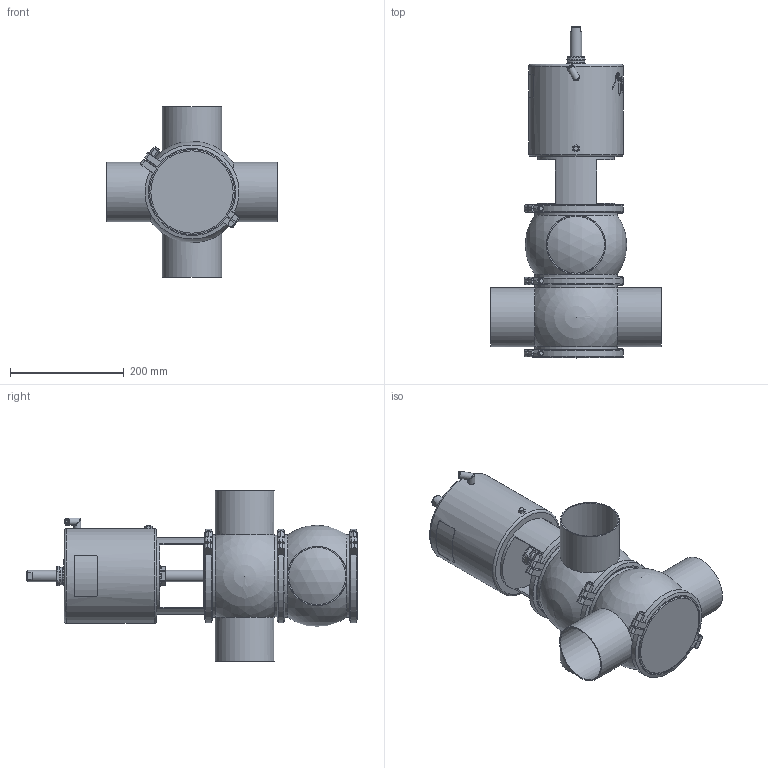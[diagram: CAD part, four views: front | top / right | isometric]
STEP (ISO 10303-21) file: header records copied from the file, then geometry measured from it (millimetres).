
FILE_DESCRIPTION (( 'STEP AP214' ), '1' );
FILE_NAME ('INNOVA M C W DIN 100 T4 AS NC_10.241.16.0007.STEP', '2024-08-07T12:41:06', ( '' ), ( '' ), 'SwSTEP 2.0', 'SolidWorks 2023', '' );
FILE_SCHEMA (( 'AUTOMOTIVE_DESIGN' ));
Length unit declared in the file: millimetre
Products named in the file (6): INNOVA M C W DIN 100 T4 AS NC_10.241.16.0007; 10.240.15.0007_DIN 100; 10.241.15.0001_DIN 100; 10.240.15.0014_T4 AS P180; 10.240.15.0001_DN 100; 10.240.15.0010_DN 100
Assembly tree (8 placements, depth 2):
  INNOVA M C W DIN 100 T4 AS NC_10.241.16.0007
    10.240.15.0007_DIN 100  x2
    10.240.15.0010_DN 100
    10.240.15.0014_T4 AS P180
    10.240.15.0001_DN 100  x3
    10.241.15.0001_DIN 100
Bounding box: 300 x 582.5 x 300 mm (x, y, z)
Volume: 9677185.7 mm3; surface area: 777500.6 mm2
Topology: 9 solids, 9 shells, 469 faces, 1253 edges, 817 vertices
Faces by surface type: plane 227, cylinder 114, bspline 80, cone 36, sphere 8, torus 4
Full cylindrical faces by diameter (mm): 6.15 x1, 8 x7, 8.5 x1, 10.5 x1, 12.5 x3, 16 x1, 20 x2, 31 x1, 34.5 x2, 36.5 x1, 100 x4, 104 x4, 135 x1, 144.5 x5, 156.5 x6, 166 x1
Entity records: 20536 total; most frequent: CARTESIAN_POINT 11310, ORIENTED_EDGE 1616, DIRECTION 1231, EDGE_CURVE 808, VERTEX_POINT 555, AXIS2_PLACEMENT_3D 471, EDGE_LOOP 405, FACE_OUTER_BOUND 366
